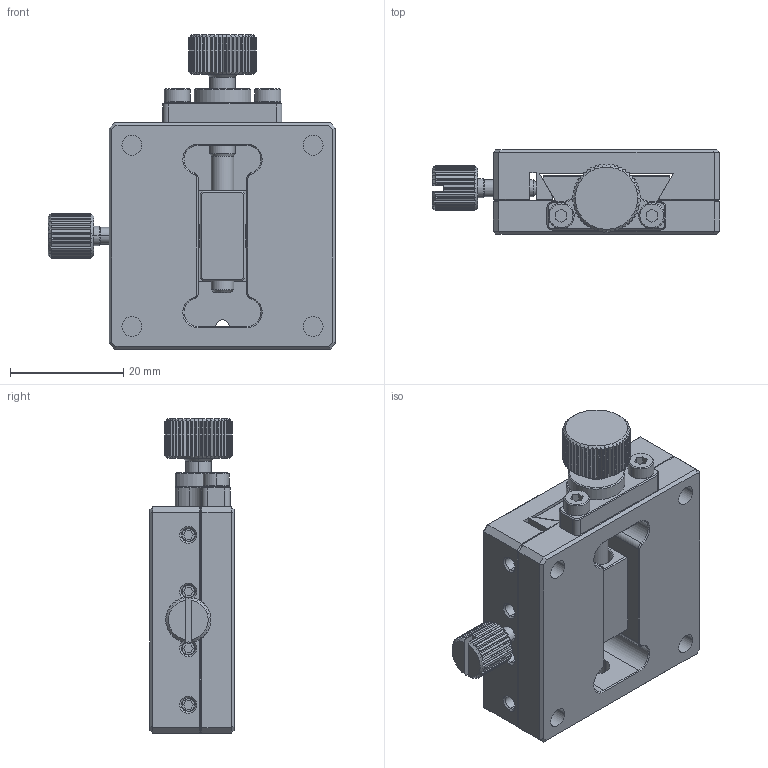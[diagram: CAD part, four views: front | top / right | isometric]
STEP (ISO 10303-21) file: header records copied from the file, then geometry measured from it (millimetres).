
FILE_DESCRIPTION((''),'2;1');
FILE_NAME('ASSY-40-L_ASM','2021-06-28T16:37:35',('windows10'),(''),'CREO PARAMETRIC BY PTC INC, 2018260','CREO PARAMETRIC BY PTC INC, 2018260','');
FILE_SCHEMA(('CONFIG_CONTROL_DESIGN'));
Length unit declared in the file: millimetre
Products named in the file (13): BOTTOM-40-40-15; TOP-40-40-15; COUPLER-4060; SCREW-M2D5-4; HANDLE-12-M4-45D5; HOLDER-HANDLE; E-RING-3-7; ASSY-HANDLE-12-M4-45D5_ASM; 2D5-8; 3-5-NOHEAD; BALL-2D381; STOPPER-8-M3-16; ASSY-40-L_ASM
Assembly tree (17 placements, depth 3):
  ASSY-40-L_ASM
    BOTTOM-40-40-15
    TOP-40-40-15
    COUPLER-4060
    SCREW-M2D5-4  x2
    ASSY-HANDLE-12-M4-45D5_ASM
      HANDLE-12-M4-45D5
      HOLDER-HANDLE
      E-RING-3-7
    2D5-8  x2
    3-5-NOHEAD  x4
    BALL-2D381
    STOPPER-8-M3-16
Bounding box: 50.75 x 14.9 x 55.5 mm (x, y, z)
Volume: 21991.8 mm3; surface area: 15578.8 mm2
Topology: 16 solids, 16 shells, 823 faces, 2083 edges, 1312 vertices
Faces by surface type: plane 413, cylinder 253, cone 143, torus 8, sphere 6
Entity records: 23277 total; most frequent: CARTESIAN_POINT 5271, ORIENTED_EDGE 3754, DIRECTION 3676, EDGE_CURVE 1877, AXIS2_PLACEMENT_3D 1379, VERTEX_POINT 1186, VECTOR 918, LINE 918
